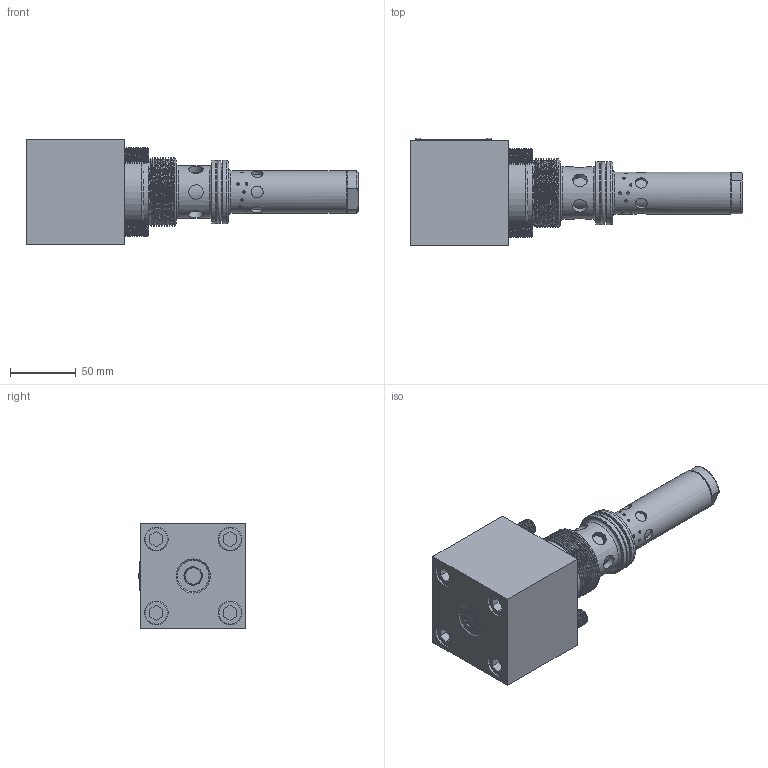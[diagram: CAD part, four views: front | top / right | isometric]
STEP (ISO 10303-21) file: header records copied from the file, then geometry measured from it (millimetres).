
FILE_DESCRIPTION(/* description */ (''),/* implementation_level */ '2;1');
FILE_NAME(/* name */ 'FD25KA平衡阀（插件）.prt.stp',/* time_stamp */ '2022-03-30T20:02:25+08:00',/* author */ (''),/* organization */ (''),/* preprocessor_version */ 'ST-DEVELOPER v16.7',/* originating_system */ 'SIEMENS PLM Software NX 12.0',/* authorisation */ '');
FILE_SCHEMA (('AUTOMOTIVE_DESIGN { 1 0 10303 214 3 1 1 1 }'));
Products named in the file (1): FD25KA平衡阀（插件）
Bounding box: 252 x 81.8 x 80 mm (x, y, z)
Volume: 748173.8 mm3; surface area: 141687.7 mm2
Topology: 17 solids, 17 shells, 500 faces, 1206 edges, 777 vertices
Faces by surface type: cylinder 254, plane 136, cone 71, bspline 23, torus 15, sphere 1
Full cylindrical faces by diameter (mm): 1.8 x2, 1.9 x2, 2 x28, 3 x6, 4.2 x1, 5 x1, 9 x7, 10.5 x1, 11 x11, 12 x108, 13 x1, 14 x2, 14.4 x1, 15.5 x1, 18 x8, 20 x1, 22 x1, 24 x15, 25.7 x6, 26.5 x2, 27 x1, 30 x2, 32 x1, 40 x1, 43.4 x1, 48 x2, 51 x2, 53.9 x1, 54 x1
Entity records: 41791 total; most frequent: CARTESIAN_POINT 34220, DIRECTION 1416, ORIENTED_EDGE 1220, EDGE_LOOP 674, AXIS2_PLACEMENT_3D 612, EDGE_CURVE 610, FACE_BOUND 532, VERTEX_POINT 501
